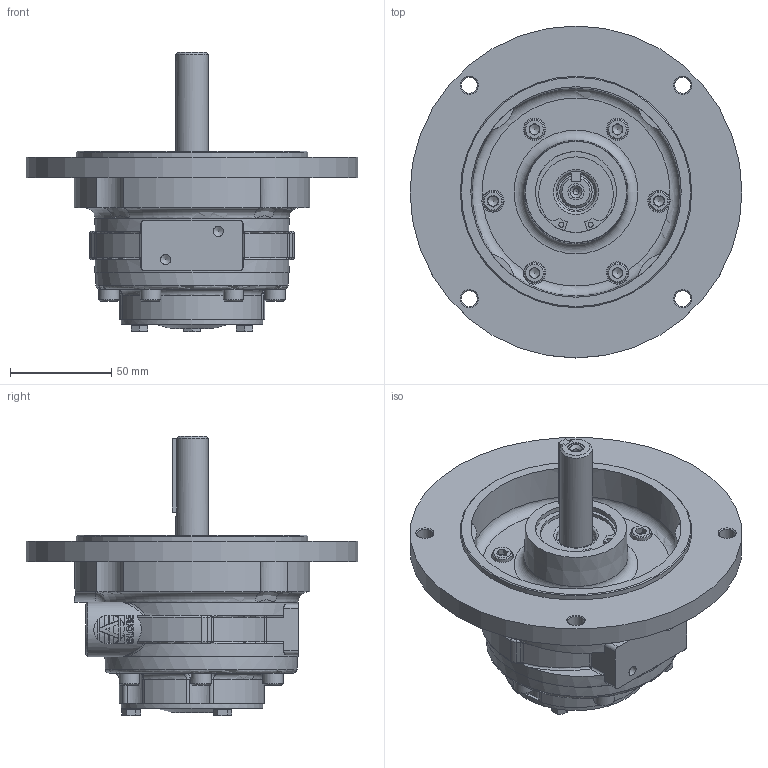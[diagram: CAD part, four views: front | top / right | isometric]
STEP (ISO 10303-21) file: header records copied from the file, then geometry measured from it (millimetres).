
FILE_DESCRIPTION (( 'STEP AP214' ), '1' );
FILE_NAME ('VA2C Defeature + Logo.STEP', '2023-05-23T09:54:34', ( '' ), ( '' ), 'SwSTEP 2.0', 'SolidWorks 2022', '' );
FILE_SCHEMA (( 'AUTOMOTIVE_DESIGN' ));
Length unit declared in the file: millimetre
Products named in the file (1): VA2C Defeature + Logo
Bounding box: 164 x 164 x 138.2 mm (x, y, z)
Volume: 643390.8 mm3; surface area: 94779.8 mm2
Topology: 1 solids, 2 shells, 664 faces, 1625 edges, 997 vertices
Faces by surface type: plane 287, cylinder 145, bspline 128, cone 59, torus 35, sphere 10
Full cylindrical faces by diameter (mm): 2.5 x2, 3 x1, 5 x2, 7.938 x4, 8 x4, 10 x12, 11 x6, 14.95 x2, 15.875 x1, 18 x1, 19.8 x1, 21.3 x1, 23.073 x1, 25 x1, 27 x2, 40 x1, 70 x1, 95 x2, 114.3 x1, 164 x1
Entity records: 32593 total; most frequent: CARTESIAN_POINT 15281, ORIENTED_EDGE 2888, DIRECTION 2499, EDGE_CURVE 1444, AXIS2_PLACEMENT_3D 1003, VERTEX_POINT 929, EDGE_LOOP 819, FACE_OUTER_BOUND 719
